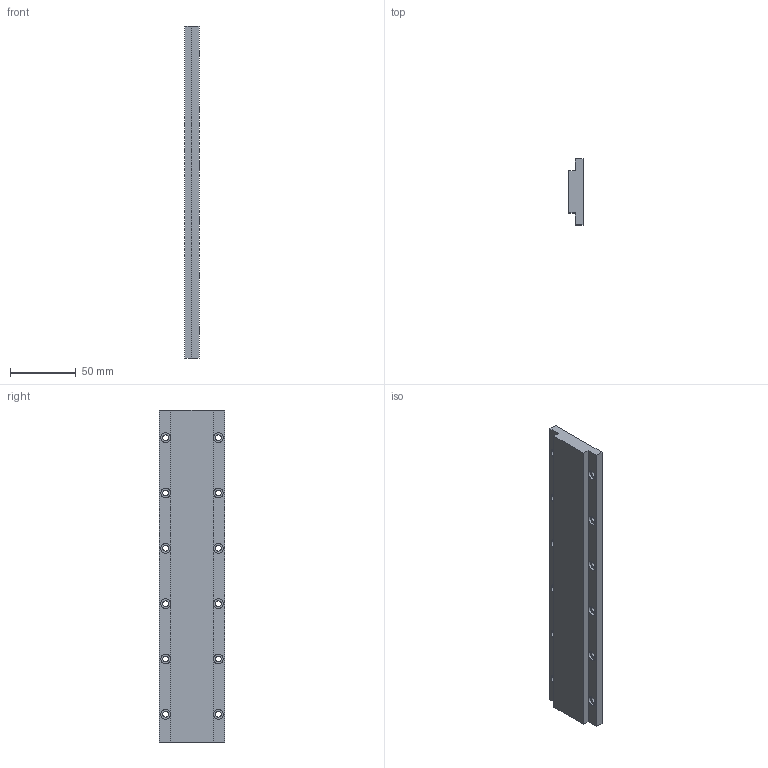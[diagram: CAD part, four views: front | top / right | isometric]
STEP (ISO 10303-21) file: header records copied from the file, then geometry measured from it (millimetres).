
FILE_DESCRIPTION (( 'STEP AP214' ), '1' );
FILE_NAME ('4-WKM30-168.STEP', '2025-09-05T11:38:37', ( '' ), ( '' ), 'SwSTEP 2.0', 'SolidWorks 2016', '' );
FILE_SCHEMA (( 'AUTOMOTIVE_DESIGN' ));
Length unit declared in the file: millimetre
Products named in the file (1): 4-WKM30-168
Bounding box: 10.8 x 50 x 252 mm (x, y, z)
Volume: 112549.9 mm3; surface area: 32415.8 mm2
Topology: 1 solids, 1 shells, 70 faces, 168 edges, 112 vertices
Faces by surface type: cylinder 48, plane 22
Entity records: 2170 total; most frequent: DIRECTION 406, CARTESIAN_POINT 351, ORIENTED_EDGE 336, EDGE_CURVE 168, AXIS2_PLACEMENT_3D 167, VERTEX_POINT 112, EDGE_LOOP 106, CIRCLE 96
